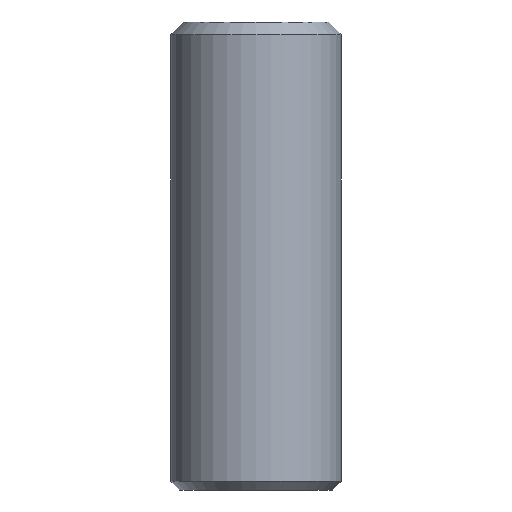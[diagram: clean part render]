
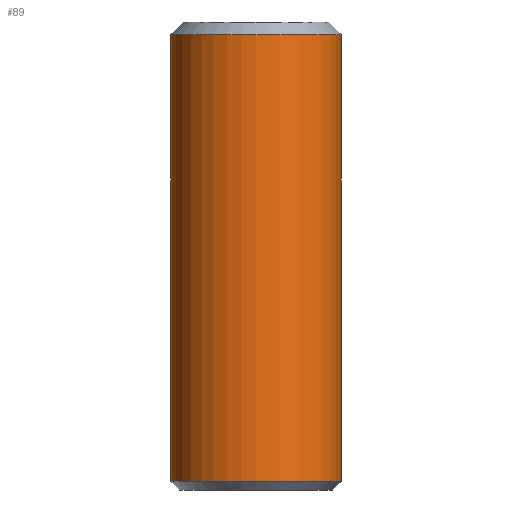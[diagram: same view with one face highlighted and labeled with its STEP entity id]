
A CAD part, front view. The second image highlights one B-rep face of the part: STEP entity #89.
In plain terms, the highlighted cylindrical face has radius 10 mm (diameter 20 mm), a full revolution.
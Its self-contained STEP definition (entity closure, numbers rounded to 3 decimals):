
#23=FACE_OUTER_BOUND('',#29,.T.);
#29=EDGE_LOOP('',(#73,#74,#75,#76));
#37=LINE('',#165,#41);
#41=VECTOR('',#139,10.);
#45=CIRCLE('',#111,10.);
#47=CIRCLE('',#114,10.);
#51=VERTEX_POINT('',#157);
#53=VERTEX_POINT('',#163);
#58=EDGE_CURVE('',#51,#51,#45,.T.);
#61=EDGE_CURVE('',#53,#53,#47,.T.);
#62=EDGE_CURVE('',#53,#51,#37,.T.);
#73=ORIENTED_EDGE('',*,*,#61,.F.);
#74=ORIENTED_EDGE('',*,*,#62,.T.);
#75=ORIENTED_EDGE('',*,*,#58,.F.);
#76=ORIENTED_EDGE('',*,*,#62,.F.);
#86=CYLINDRICAL_SURFACE('',#113,10.);
#89=ADVANCED_FACE('',(#23),#86,.T.);
#111=AXIS2_PLACEMENT_3D('',#158,#130,#131);
#113=AXIS2_PLACEMENT_3D('',#162,#135,#136);
#114=AXIS2_PLACEMENT_3D('',#164,#137,#138);
#130=DIRECTION('center_axis',(0.,0.,-1.));
#131=DIRECTION('ref_axis',(-1.,0.,0.));
#135=DIRECTION('center_axis',(0.,0.,1.));
#136=DIRECTION('ref_axis',(-1.,0.,0.));
#137=DIRECTION('center_axis',(0.,0.,1.));
#138=DIRECTION('ref_axis',(-1.,0.,0.));
#139=DIRECTION('',(0.,0.,-1.));
#157=CARTESIAN_POINT('',(-85.,95.,5.));
#158=CARTESIAN_POINT('Origin',(-95.,95.,5.));
#162=CARTESIAN_POINT('Origin',(-95.,95.,4.));
#163=CARTESIAN_POINT('',(-85.,95.,57.5));
#164=CARTESIAN_POINT('Origin',(-95.,95.,57.5));
#165=CARTESIAN_POINT('',(-85.,95.,4.));
